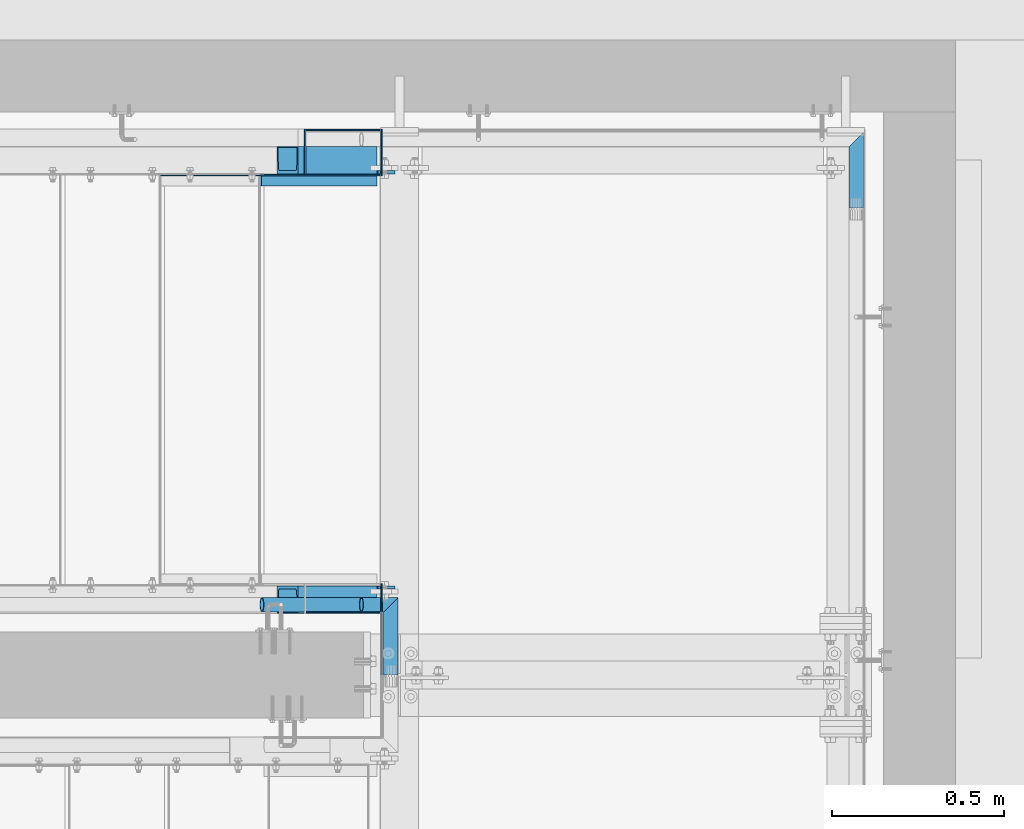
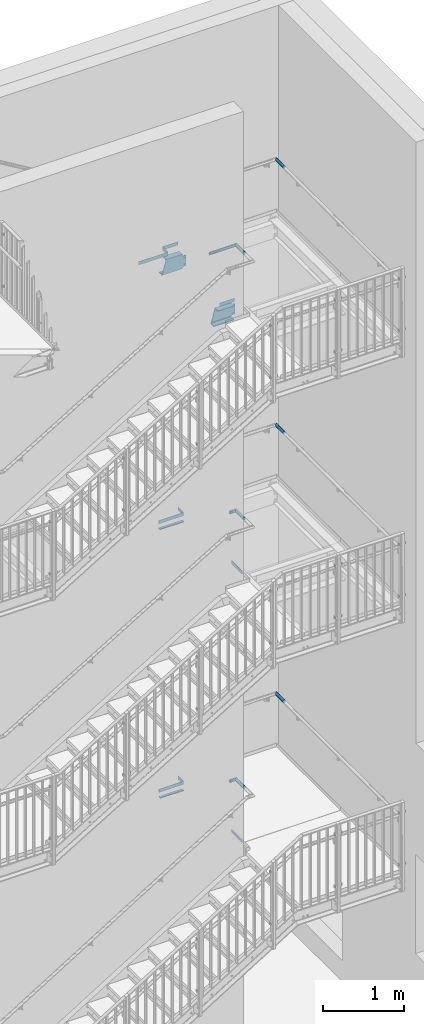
# One storey, part 44 of 410: 23 beams, 8 openings.
"""IFC2X3 building model written with IfcOpenShell, lengths in millimetres."""

from ifc_helpers import new_model, entity, si_unit, converted_unit, point, frame, frame_2d, origin, origin_with_axes, origin_2d, origin_2d_with_axis, place, context, project, spatial, circle_curve, line_curve, trimmed, segment, composite_curve, rectangle, circle, hollow_circle, u_section, outline, extrude, clip, halfspace, material, element, save


model = new_model("IFC2X3")

# Units and contexts
model_context = context("Model", 3, precision=1e-09, world=origin_with_axes())
ifc_project = project(units=[si_unit("LENGTHUNIT", "METRE", prefix="MILLI"), si_unit("AREAUNIT", "SQUARE_METRE"), si_unit("VOLUMEUNIT", "CUBIC_METRE"), converted_unit("PLANEANGLEUNIT", "DEGREE", entity("IfcPlaneAngleMeasure", 0.01745329), si_unit("PLANEANGLEUNIT", "RADIAN"), dimensions=[0, 0, 0, 0, 0, 0, 0])], contexts=[model_context])

# Site, building, storey
site_placement = place(None, origin_with_axes())
site = spatial("IfcSite", under=ifc_project, at=site_placement, Name="mKR Teilneubau & Sanierung BA1 - Ostfildern", CompositionType="ELEMENT")
building_placement = place(site_placement, origin_with_axes())
building = spatial("IfcBuilding", under=site, at=building_placement, Name="Struktur 1", CompositionType="ELEMENT")
storey_placement = place(building_placement, origin_with_axes())
storey = spatial("IfcBuildingStorey", under=building, at=storey_placement, Name="Default Storey", CompositionType="ELEMENT", Elevation=0.0)

# Beam, openings
ifc_material = material(Name="S235JR")
beam_1_placement = place(None, frame((1348.75014853, 18461.399999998, 5755.0), z_axis=(1.0, 0.0, 0.0), x_axis=(0.0, 1.0, 0.0)))
beam_1 = element("IfcBeam", 1, at=beam_1_placement, inside=storey, material=ifc_material, Name="-", ObjectType="-", context=model_context, shape_type="Clipping", body=[
    clip(clip(extrude(u_section(Depth=220.0, FlangeWidth=80.0, WebThickness=9.0, FlangeThickness=12.5, FilletRadius=12.5, EdgeRadius=6.0, FlangeSlope=4.574, at=frame_2d((18.6, 0.0))), origin(), (0.0, 0.0, 1.0), 745.348318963), halfspace(frame((-18461.399999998, -5755.0, 518.300319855), z_axis=(0.0, 0.0, -1.0), x_axis=(-1.0, 0.0, 0.0)), True)), halfspace(frame((-18461.399999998, -5742.579952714, -1393.370821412), z_axis=(0.0, -0.268153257, 0.963376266), x_axis=(1.0, 0.0, 0.0)), True)),
])
opening_1_placement = place(beam_1_placement, frame((-1481.4, 80.000000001, 519.101319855), z_axis=(-1.0, 0.0, 0.0), x_axis=(0.0, 1.0, 0.0)))
element("IfcOpeningElement", 2, at=opening_1_placement, cuts=beam_1, ObjectType="Opening", context=model_context, shape_type="SweptSolid", body=[
    extrude(outline(composite_curve([segment(trimmed(line_curve((0.0, 0.0), (1.0, 0.0), 30.799999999), [point((0.0, 0.0))], [point((30.799999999, 0.0))], True, "CARTESIAN"), True, "CONTINUOUS"), segment(trimmed(line_curve((30.799999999, 0.0), (0.0, 1.0), 52.85), [point((30.799999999, 0.0))], [point((30.799999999, 52.85))], True, "CARTESIAN"), True, "CONTINUOUS"), segment(trimmed(line_curve((30.799999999, 52.85), (-1.0, 0.0), 25.799999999), [point((30.799999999, 52.85))], [point((5.0, 52.85))], True, "CARTESIAN"), True, "CONTINUOUS"), segment(trimmed(circle_curve(frame_2d((5.0, 47.85), x_axis=(1.0, 0.0)), 5.0), [point((5.0, 52.85))], [point((0.0, 47.85))], True, "CARTESIAN"), True, "CONTINUOUS"), segment(trimmed(line_curve((0.0, 47.85), (0.0, -1.0), 47.85), [point((0.0, 47.85))], [point((0.0, 0.0))], True, "CARTESIAN"), True, "CONTINUOUS")], self_intersect=False)), origin(), (0.0, 0.0, -1.0), 3000.0),
])
opening_2_placement = place(beam_1_placement, frame((1518.6, -79.999999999, 519.101319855), z_axis=(1.0, 0.0, 0.0), x_axis=(0.0, -1.0, 0.0)))
element("IfcOpeningElement", 3, at=opening_2_placement, cuts=beam_1, ObjectType="Opening", context=model_context, shape_type="SweptSolid", body=[
    extrude(outline(composite_curve([segment(trimmed(line_curve((0.0, 0.0), (1.0, 0.0), 30.800000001), [point((0.0, 0.0))], [point((30.800000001, 0.0))], True, "CARTESIAN"), True, "CONTINUOUS"), segment(trimmed(line_curve((30.800000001, 0.0), (0.0, 1.0), 52.85), [point((30.800000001, 0.0))], [point((30.800000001, 52.85))], True, "CARTESIAN"), True, "CONTINUOUS"), segment(trimmed(line_curve((30.800000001, 52.85), (-1.0, 0.0), 25.800000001), [point((30.800000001, 52.85))], [point((5.0, 52.85))], True, "CARTESIAN"), True, "CONTINUOUS"), segment(trimmed(circle_curve(frame_2d((5.0, 47.85), x_axis=(1.0, 0.0)), 5.0), [point((5.0, 52.85))], [point((0.0, 47.85))], True, "CARTESIAN"), True, "CONTINUOUS"), segment(trimmed(line_curve((0.0, 47.85), (0.0, -1.0), 47.85), [point((0.0, 47.85))], [point((0.0, 0.0))], True, "CARTESIAN"), True, "CONTINUOUS")], self_intersect=False)), origin(), (0.0, 0.0, -1.0), 3000.0),
])
opening_3_placement = place(beam_1_placement, frame((-11.9, 50.0, 487.301319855), z_axis=(-1.0, 0.0, 0.0), x_axis=(0.0, 0.0, -1.0)))
element("IfcOpeningElement", 4, at=opening_3_placement, cuts=beam_1, ObjectType="Opening", context=model_context, shape_type="SweptSolid", body=[
    extrude(circle(Radius=9.001, at=frame_2d((0.0, 100.0), x_axis=(1.0, 0.0))), origin(), (0.0, 0.0, 1.0), 10.0),
])
opening_4_placement = place(beam_1_placement, frame((-11.9, 50.0, 487.301319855), z_axis=(-1.0, 0.0, 0.0), x_axis=(0.0, 0.0, -1.0)))
element("IfcOpeningElement", 5, at=opening_4_placement, cuts=beam_1, ObjectType="Opening", context=model_context, shape_type="SweptSolid", body=[
    extrude(circle(Radius=9.001, at=origin_2d_with_axis()), origin(), (0.0, 0.0, 1.0), 10.0),
])

beam_2_placement = place(None, frame((1348.75014853, 17218.599999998, 5755.0), z_axis=(-1.0, 0.0, 0.0), x_axis=(0.0, -1.0, 0.0)))
beam_2 = element("IfcBeam", 6, at=beam_2_placement, inside=storey, material=ifc_material, Name="-", ObjectType="-", context=model_context, shape_type="Clipping", body=[
    clip(clip(extrude(u_section(Depth=220.0, FlangeWidth=80.0, WebThickness=9.0, FlangeThickness=12.5, FilletRadius=12.5, EdgeRadius=6.0, FlangeSlope=4.574, at=frame_2d((18.6, 0.0))), origin(), (0.0, 0.0, -1.0), 745.348318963), halfspace(frame((17218.599999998, -5755.0, -518.300319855), z_axis=(0.0, 0.0, 1.0), x_axis=(1.0, 0.0, 0.0)), True)), halfspace(frame((17218.599999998, -5742.579952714, 1393.370821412), z_axis=(0.0, -0.268153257, -0.963376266), x_axis=(-1.0, 0.0, 0.0)), True)),
])
opening_5_placement = place(beam_2_placement, frame((-1481.4, 110.0, -476.251319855), z_axis=(1.0, 0.0, 0.0), x_axis=(0.0, 0.0, -1.0)))
element("IfcOpeningElement", 7, at=opening_5_placement, cuts=beam_2, ObjectType="Opening", context=model_context, shape_type="SweptSolid", body=[
    extrude(outline(composite_curve([segment(trimmed(line_curve((42.85, -29.999999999), (0.0, 1.0), 30.799999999), [point((42.85, -29.999999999))], [point((42.85, 0.8))], True, "CARTESIAN"), True, "CONTINUOUS"), segment(trimmed(line_curve((42.85, 0.8), (-1.0, 0.0), 52.85), [point((42.85, 0.8))], [point((-10.0, 0.8))], True, "CARTESIAN"), True, "CONTINUOUS"), segment(trimmed(line_curve((-10.0, 0.8), (0.0, -1.0), 25.799999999), [point((-10.0, 0.8))], [point((-10.0, -24.999999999))], True, "CARTESIAN"), True, "CONTINUOUS"), segment(trimmed(circle_curve(frame_2d((-5.0, -24.999999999), x_axis=(1.0, 0.0)), 5.0), [point((-10.0, -24.999999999))], [point((-5.0, -29.999999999))], True, "CARTESIAN"), True, "CONTINUOUS"), segment(trimmed(line_curve((-5.0, -29.999999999), (1.0, 0.0), 47.85), [point((-5.0, -29.999999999))], [point((42.85, -29.999999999))], True, "CARTESIAN"), True, "CONTINUOUS")], self_intersect=False)), origin(), (0.0, 0.0, 1.0), 3000.0),
])
opening_6_placement = place(beam_2_placement, frame((1518.6, 110.0, -476.251319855), z_axis=(-1.0, 0.0, 0.0), x_axis=(0.0, 0.0, 1.0)))
element("IfcOpeningElement", 8, at=opening_6_placement, cuts=beam_2, ObjectType="Opening", context=model_context, shape_type="SweptSolid", body=[
    extrude(outline(composite_curve([segment(trimmed(line_curve((-42.85, -189.999999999), (0.0, -1.0), 30.800000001), [point((-42.85, -189.999999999))], [point((-42.85, -220.8))], True, "CARTESIAN"), True, "CONTINUOUS"), segment(trimmed(line_curve((-42.85, -220.8), (1.0, 0.0), 52.85), [point((-42.85, -220.8))], [point((10.0, -220.8))], True, "CARTESIAN"), True, "CONTINUOUS"), segment(trimmed(line_curve((10.0, -220.8), (0.0, 1.0), 25.800000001), [point((10.0, -220.8))], [point((10.0, -194.999999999))], True, "CARTESIAN"), True, "CONTINUOUS"), segment(trimmed(circle_curve(frame_2d((5.0, -194.999999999), x_axis=(1.0, 0.0)), 5.0), [point((10.0, -194.999999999))], [point((5.0, -189.999999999))], True, "CARTESIAN"), True, "CONTINUOUS"), segment(trimmed(line_curve((5.0, -189.999999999), (-1.0, 0.0), 47.85), [point((5.0, -189.999999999))], [point((-42.85, -189.999999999))], True, "CARTESIAN"), True, "CONTINUOUS")], self_intersect=False)), origin(), (0.0, 0.0, 1.0), 3000.0),
])
opening_7_placement = place(beam_2_placement, frame((-11.9, -50.0, -496.302319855), z_axis=(1.0, 0.0, 0.0), x_axis=(0.0, 1.0, 0.0)))
element("IfcOpeningElement", 9, at=opening_7_placement, cuts=beam_2, ObjectType="Opening", context=model_context, shape_type="SweptSolid", body=[
    extrude(circle(Radius=9.001, at=frame_2d((0.0, 9.001), x_axis=(1.0, 0.0))), origin(), (0.0, 0.0, -1.0), 10.0),
])
opening_8_placement = place(beam_2_placement, frame((-11.9, 50.0, -496.302319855), z_axis=(1.0, 0.0, 0.0), x_axis=(0.0, 1.0, 0.0)))
element("IfcOpeningElement", 10, at=opening_8_placement, cuts=beam_2, ObjectType="Opening", context=model_context, shape_type="SweptSolid", body=[
    extrude(circle(Radius=9.001, at=frame_2d((0.0, 9.001), x_axis=(1.0, 0.0))), origin(), (0.0, 0.0, -1.0), 10.0),
])

# Beams
beam_3_placement = place(None, frame((1472.302143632, 18422.499999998, 1845.5434785), z_axis=(-1.0, 0.0, 0.0), x_axis=(0.0, 0.0, -1.0)))
element("IfcBeam", 11, at=beam_3_placement, inside=storey, material=ifc_material, Name="-", ObjectType="-", context=model_context, shape_type="SweptSolid", body=[
    extrude(rectangle(XDim=15.0, YDim=35.0, at=origin_2d()), origin(), (0.0, 0.0, -1.0), 342.698324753),
])
beam_4_placement = place(None, frame((1477.451209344, 18422.499999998, -2213.1), z_axis=(-1.0, 0.0, 0.0), x_axis=(0.0, 0.0, -1.0)))
element("IfcBeam", 12, at=beam_4_placement, inside=storey, material=ifc_material, Name="-", ObjectType="-", context=model_context, shape_type="SweptSolid", body=[
    extrude(rectangle(XDim=15.0, YDim=35.0, at=origin_2d()), origin(), (0.0, 0.0, -1.0), 337.549259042),
])
beam_5_placement = place(None, frame((1605.002468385, 18569.999999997, 5950.0), z_axis=(0.0, 1.0, 0.0), x_axis=(-1.0, 0.0, 0.0)))
element("IfcBeam", 13, at=beam_5_placement, inside=storey, material=ifc_material, Name="-", ObjectType="-", context=model_context, shape_type="SweptSolid", body=[
    extrude(rectangle(XDim=4.0, YDim=50.0, at=origin_2d()), origin(), (0.0, 0.0, -1.0), 132.001),
])
beam_6_placement = place(None, frame((1607.002468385, 17161.999999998, 5950.0), z_axis=(-1.0, 0.0, 0.0), x_axis=(0.0, -1.0, 0.0)))
element("IfcBeam", 14, at=beam_6_placement, inside=storey, material=ifc_material, Name="-", ObjectType="-", context=model_context, shape_type="SweptSolid", body=[
    extrude(rectangle(XDim=4.0, YDim=50.0, at=origin_2d()), origin(), (0.0, 0.0, -1.0), 215.999),
])
for number, where, z_axis, x_axis in (
    (15, (1827.001468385, 18569.999999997, 1938.0434785), (0.0, 1.0, 0.0), (-1.0, 0.0, 0.0)),
    (16, (1827.001468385, 18569.999999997, -2120.6), (0.0, 1.0, 0.0), (-1.0, 0.0, 0.0)),
):
    element("IfcBeam", number, at=place(None, frame(where, z_axis=z_axis, x_axis=x_axis)), inside=storey, material=ifc_material, Name="-", ObjectType="-", context=model_context, shape_type="SweptSolid", body=[
        extrude(rectangle(XDim=4.0, YDim=50.0, at=origin_2d()), origin(), (0.0, 0.0, -1.0), 136.0),
    ])
for number, where, z_axis, x_axis in (
    (17, (1823.001468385, 18435.999999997, -2120.6), (1.0, 0.0, 0.0), (0.0, 1.0, 0.0)),
    (18, (1474.0, 18435.999999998, 1938.0434785), (-1.0, 0.0, 0.0), (0.0, -1.0, 0.0)),
):
    element("IfcBeam", number, at=place(None, frame(where, z_axis=z_axis, x_axis=x_axis)), inside=storey, material=ifc_material, Name="-", ObjectType="-", context=model_context, shape_type="SweptSolid", body=[
        extrude(rectangle(XDim=4.0, YDim=50.0, at=origin_2d()), origin(), (0.0, 0.0, -1.0), 349.001468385),
    ])
beam_7_placement = place(None, frame((1827.001468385, 17245.999999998, -2120.6), z_axis=(0.0, 1.0, 0.0), x_axis=(-1.0, 0.0, 0.0)))
element("IfcBeam", 19, at=beam_7_placement, inside=storey, material=ifc_material, Name="-", ObjectType="-", context=model_context, shape_type="SweptSolid", body=[
    extrude(rectangle(XDim=4.0, YDim=50.0, at=origin_2d()), origin(), (0.0, 0.0, -1.0), 264.999999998),
])
beam_8_placement = place(None, frame((1827.001468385, 17245.999999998, 1938.0434785), z_axis=(0.0, 1.0, 0.0), x_axis=(-1.0, 0.0, 0.0)))
element("IfcBeam", 20, at=beam_8_placement, inside=storey, material=ifc_material, Name="-", ObjectType="-", context=model_context, shape_type="SweptSolid", body=[
    extrude(rectangle(XDim=4.0, YDim=50.0, at=origin_2d()), origin(), (0.0, 0.0, -1.0), 264.999999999),
])
beam_9_placement = place(None, frame((1823.001468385, 18567.999999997, 5950.0), z_axis=(1.0, 0.0, 0.0), x_axis=(0.0, 1.0, 0.0)))
element("IfcBeam", 21, at=beam_9_placement, inside=storey, material=ifc_material, Name="-", ObjectType="-", context=model_context, shape_type="SweptSolid", body=[
    extrude(rectangle(XDim=4.0, YDim=50.0, at=origin_2d()), origin(), (0.0, 0.0, -1.0), 215.999),
])
beam_10_placement = place(None, frame((1184.0, 18435.998999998, 5950.0), z_axis=(-1.0, 0.0, 0.0), x_axis=(0.0, -1.0, 0.0)))
element("IfcBeam", 22, at=beam_10_placement, inside=storey, material=ifc_material, Name="-", ObjectType="-", context=model_context, shape_type="SweptSolid", body=[
    extrude(rectangle(XDim=4.0, YDim=50.0, at=origin_2d()), origin(), (0.0, 0.0, -1.0), 423.002468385),
])
beam_11_placement = place(None, frame((1447.976990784, 17185.0, 6753.800571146), z_axis=(-1.0, 0.0, 0.0), x_axis=(0.0, -1.0, 0.0)))
element("IfcBeam", 23, at=beam_11_placement, inside=storey, Name="-", ObjectType="-", context=model_context, shape_type="Clipping", body=[
    clip(clip(extrude(hollow_circle(Radius=21.2, WallThickness=3.2, at=origin_2d()), origin(), (0.0, 0.0, -1.0), 449.423009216), halfspace(frame((17185.0, -6650.25999424, 1819.960293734), z_axis=(0.0, -0.268153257, -0.963376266), x_axis=(-1.0, 0.0, 0.0)), True)), halfspace(frame((9519.999292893, -6753.800571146, 9112.977697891), z_axis=(-0.707106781, 0.0, 0.707106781), x_axis=(0.707106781, 0.0, 0.707106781)), True)),
])
beam_12_placement = place(None, frame((1897.4, 17185.000022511, 2741.8434785), z_axis=(1.0, 0.0, 0.0), x_axis=(0.0, 1.0, 0.0)))
element("IfcBeam", 24, at=beam_12_placement, inside=storey, Name="-", ObjectType="-", context=model_context, shape_type="Clipping", body=[
    clip(clip(extrude(hollow_circle(Radius=21.2, WallThickness=3.2, at=origin_2d()), origin(), (0.0, 0.0, -1.0), 159.378755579), halfspace(frame((-17185.000022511, -3001.570989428, -959.299227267), z_axis=(0.0, -0.266827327, 0.963744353), x_axis=(1.0, 0.0, 0.0)), True)), halfspace(frame((-9519.999304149, -2741.8434785, -9562.400718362), z_axis=(0.707106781, 0.0, -0.707106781), x_axis=(-0.707106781, 0.0, -0.707106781)), True)),
])
beam_13_placement = place(None, frame((1737.826945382, 17185.0, -1316.799999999), z_axis=(-1.0, 0.0, 0.0), x_axis=(0.0, -1.0, 0.0)))
element("IfcBeam", 25, at=beam_13_placement, inside=storey, Name="-", ObjectType="-", context=model_context, shape_type="Clipping", body=[
    clip(clip(extrude(hollow_circle(Radius=21.2, WallThickness=3.2, at=origin_2d()), origin(), (0.0, 0.0, -1.0), 159.573054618), halfspace(frame((17185.0, 754.640719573, -245.103937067), z_axis=(0.0, -0.272750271, -0.962084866), x_axis=(-1.0, 0.0, 0.0)), True)), halfspace(frame((9519.999292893, 1316.799999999, 9402.827652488), z_axis=(-0.707106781, 0.0, 0.707106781), x_axis=(0.707106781, 0.0, 0.707106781)), True)),
])
beam_14_placement = place(None, frame((1855.0, 17227.4, -1316.8), z_axis=(0.0, 1.0, 0.0), x_axis=(-1.0, 0.0, 0.0)))
element("IfcBeam", 26, at=beam_14_placement, inside=storey, Name="-", ObjectType="-", context=model_context, shape_type="Clipping", body=[
    clip(extrude(hollow_circle(Radius=21.2, WallThickness=3.2, at=origin_2d()), origin(), (0.0, 0.0, -1.0), 247.4), halfspace(frame((9519.999292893, 1316.8, -9562.400707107), z_axis=(-0.707106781, 0.0, -0.707106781), x_axis=(-0.707106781, 0.0, 0.707106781)), True)),
])
beam_15_placement = place(None, frame((1855.0, 17227.400022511, 2741.8434785), z_axis=(0.0, 1.0, 0.0), x_axis=(-1.0, 0.0, 0.0)))
element("IfcBeam", 27, at=beam_15_placement, inside=storey, Name="-", ObjectType="-", context=model_context, shape_type="Clipping", body=[
    clip(extrude(hollow_circle(Radius=21.2, WallThickness=3.2, at=origin_2d()), origin(), (0.0, 0.0, -1.0), 247.400011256), halfspace(frame((9519.999304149, -2741.8434785, -9562.400718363), z_axis=(-0.707106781, 0.0, -0.707106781), x_axis=(-0.707106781, 0.0, 0.707106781)), True)),
])
beam_16_placement = place(None, frame((1855.0, 17227.4, 6753.8), z_axis=(0.0, 1.0, 0.0), x_axis=(-1.0, 0.0, 0.0)))
element("IfcBeam", 28, at=beam_16_placement, inside=storey, Name="-", ObjectType="-", context=model_context, shape_type="Clipping", body=[
    clip(extrude(hollow_circle(Radius=21.2, WallThickness=3.2, at=origin_2d()), origin(), (0.0, 0.0, -1.0), 247.400003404), halfspace(frame((9519.999292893, -6753.8, -9562.400707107), z_axis=(-0.707106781, 0.0, -0.707106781), x_axis=(-0.707106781, 0.0, 0.707106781)), True)),
])
beam_17_placement = place(None, frame((3209.999216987, 18582.399977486, 6753.8), z_axis=(0.0, 1.0, 0.0), x_axis=(-1.0, 0.0, 0.0)))
element("IfcBeam", 29, at=beam_17_placement, inside=storey, Name="-", ObjectType="-", context=model_context, shape_type="Clipping", body=[
    clip(extrude(hollow_circle(Radius=21.2, WallThickness=3.2, at=origin_2d()), origin(), (0.0, 0.0, -1.0), 242.4), halfspace(frame((10874.99889013, -6753.8, -10917.400304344), z_axis=(-0.707106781, 0.0, -0.707106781), x_axis=(-0.707106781, 0.0, 0.707106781)), True)),
])
beam_18_placement = place(None, frame((3209.999216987, 18582.399999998, 2741.8434785), z_axis=(0.0, 1.0, 0.0), x_axis=(-1.0, 0.0, 0.0)))
element("IfcBeam", 30, at=beam_18_placement, inside=storey, Name="-", ObjectType="-", context=model_context, shape_type="Clipping", body=[
    clip(extrude(hollow_circle(Radius=21.2, WallThickness=3.2, at=origin_2d()), origin(), (0.0, 0.0, -1.0), 242.4), halfspace(frame((10874.998901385, -2741.8434785, -10917.400315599), z_axis=(-0.707106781, 0.0, -0.707106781), x_axis=(-0.707106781, 0.0, 0.707106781)), True)),
])
beam_19_placement = place(None, frame((3209.999216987, 18582.399977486, -1316.8), z_axis=(0.0, 1.0, 0.0), x_axis=(-1.0, 0.0, 0.0)))
element("IfcBeam", 31, at=beam_19_placement, inside=storey, Name="-", ObjectType="-", context=model_context, shape_type="Clipping", body=[
    clip(extrude(hollow_circle(Radius=21.2, WallThickness=3.2, at=origin_2d()), origin(), (0.0, 0.0, -1.0), 242.4), halfspace(frame((10874.99889013, 1316.8, -10917.400304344), z_axis=(-0.707106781, 0.0, -0.707106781), x_axis=(-0.707106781, 0.0, 0.707106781)), True)),
])

save(model, "model.ifc")
